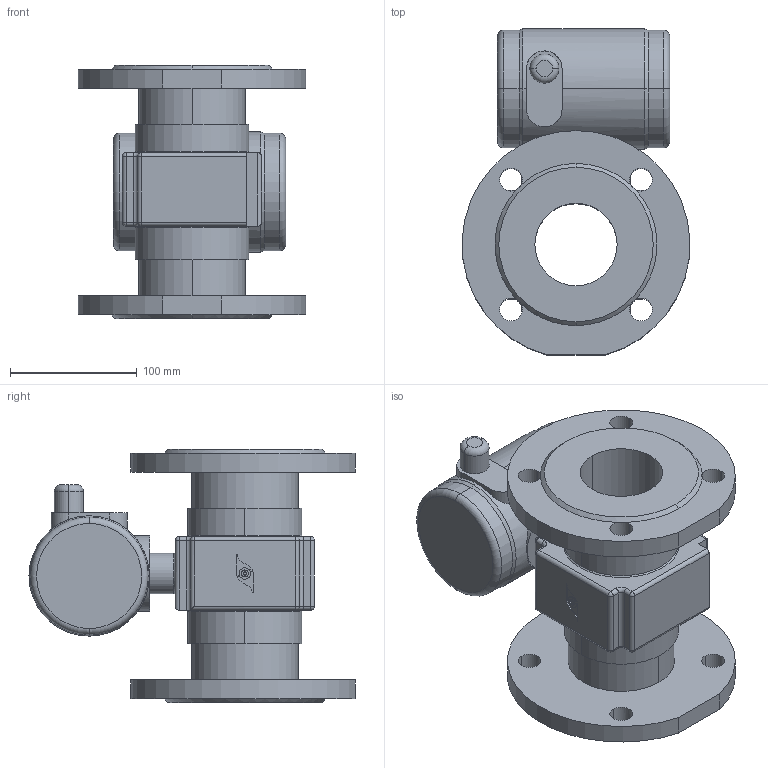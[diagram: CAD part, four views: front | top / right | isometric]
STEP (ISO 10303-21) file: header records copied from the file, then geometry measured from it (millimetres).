
FILE_DESCRIPTION (( 'STEP AP203' ), '1' );
FILE_NAME ('PC65-GOST_12820.STEP', '2015-11-09T07:40:54', ( '' ), ( '' ), 'SwSTEP 2.0', 'SolidWorks 2015', '' );
FILE_SCHEMA (( 'CONFIG_CONTROL_DESIGN' ));
Length unit declared in the file: millimetre
Products named in the file (2): PC65-GOST_12820
Bounding box: 179.82 x 257.5 x 200 mm (x, y, z)
Volume: 2417984.2 mm3; surface area: 275491.2 mm2
Topology: 3 solids, 3 shells, 201 faces, 482 edges, 288 vertices
Faces by surface type: cylinder 92, plane 66, cone 14, torus 11, sphere 10, bspline 8
Entity records: 6228 total; most frequent: CARTESIAN_POINT 1307, DIRECTION 1077, ORIENTED_EDGE 944, EDGE_CURVE 472, AXIS2_PLACEMENT_3D 434, VERTEX_POINT 288, CIRCLE 239, EDGE_LOOP 234
